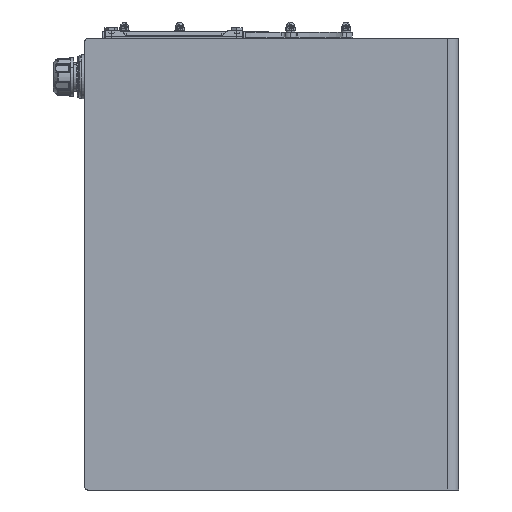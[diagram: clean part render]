
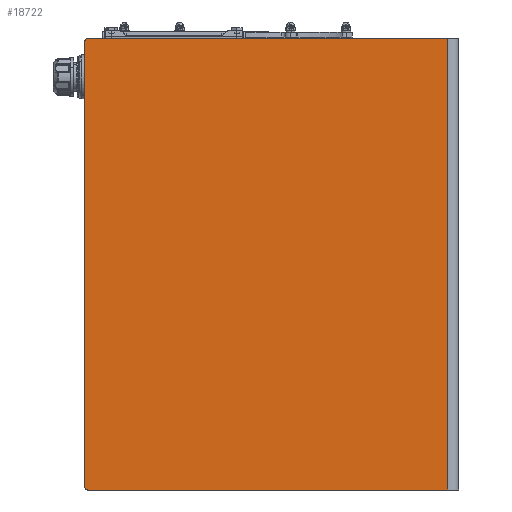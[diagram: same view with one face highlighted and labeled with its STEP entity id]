
A CAD part, left-side view. The second image highlights one B-rep face of the part: STEP entity #18722.
In plain terms, the highlighted planar face has unit normal (-1, 0, 0) as drawn and (0, 0, 1) by its records, which use the part's own axes.
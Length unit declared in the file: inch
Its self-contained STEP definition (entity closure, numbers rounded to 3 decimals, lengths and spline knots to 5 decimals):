
#185 = VERTEX_POINT ( 'NONE', #33031 ) ;
#1149 = ORIENTED_EDGE ( 'NONE', *, *, #26928, .T. ) ;
#1433 = DIRECTION ( 'NONE',  ( 0., 0., -1. ) ) ;
#1453 = ORIENTED_EDGE ( 'NONE', *, *, #2153, .T. ) ;
#1588 = CARTESIAN_POINT ( 'NONE',  ( 18., 14.65625, 0. ) ) ;
#1622 = PLANE ( 'NONE',  #28135 ) ;
#1955 = VECTOR ( 'NONE', #28889, 39.37008 ) ;
#2153 = EDGE_CURVE ( 'NONE', #36305, #19868, #9158, .T. ) ;
#2826 = ORIENTED_EDGE ( 'NONE', *, *, #7020, .T. ) ;
#3908 = EDGE_CURVE ( 'NONE', #29284, #36305, #28402, .T. ) ;
#4066 = DIRECTION ( 'NONE',  ( -1., 0., 0. ) ) ;
#6580 = CARTESIAN_POINT ( 'NONE',  ( 18., -14.06245, 0. ) ) ;
#6896 = FACE_OUTER_BOUND ( 'NONE', #15544, .T. ) ;
#7020 = EDGE_CURVE ( 'NONE', #185, #23092, #35003, .T. ) ;
#9158 = LINE ( 'NONE', #9337, #34920 ) ;
#9337 = CARTESIAN_POINT ( 'NONE',  ( -18., 14.90625, 0. ) ) ;
#9705 = DIRECTION ( 'NONE',  ( -1., 0., 0. ) ) ;
#10272 = CARTESIAN_POINT ( 'NONE',  ( 0., 0., 0. ) ) ;
#10348 = DIRECTION ( 'NONE',  ( 1., 0., 0. ) ) ;
#14272 = LINE ( 'NONE', #17477, #1955 ) ;
#15544 = EDGE_LOOP ( 'NONE', ( #27835, #36625, #1453, #1149, #2826, #16254 ) ) ;
#16021 = DIRECTION ( 'NONE',  ( -1., 0., 0. ) ) ;
#16254 = ORIENTED_EDGE ( 'NONE', *, *, #23882, .T. ) ;
#16708 = DIRECTION ( 'NONE',  ( 0., 0., 1. ) ) ;
#17477 = CARTESIAN_POINT ( 'NONE',  ( 18., -14.90625, 0. ) ) ;
#17736 = VERTEX_POINT ( 'NONE', #6580 ) ;
#18645 = CARTESIAN_POINT ( 'NONE',  ( 17.75, 14.65625, 0. ) ) ;
#18722 = ADVANCED_FACE ( 'NONE', ( #6896 ), #1622, .F. ) ;
#19868 = VERTEX_POINT ( 'NONE', #36419 ) ;
#20956 = CARTESIAN_POINT ( 'NONE',  ( -18., -14.90625, 0. ) ) ;
#21652 = CARTESIAN_POINT ( 'NONE',  ( -18., -14.06245, 0. ) ) ;
#21665 = VECTOR ( 'NONE', #32002, 39.37008 ) ;
#23092 = VERTEX_POINT ( 'NONE', #34764 ) ;
#23171 = CIRCLE ( 'NONE', #30937, 0.25 ) ;
#23882 = EDGE_CURVE ( 'NONE', #23092, #17736, #24453, .T. ) ;
#24453 = LINE ( 'NONE', #21652, #33896 ) ;
#26928 = EDGE_CURVE ( 'NONE', #19868, #185, #23171, .T. ) ;
#27201 = AXIS2_PLACEMENT_3D ( 'NONE', #18645, #35874, #16021 ) ;
#27835 = ORIENTED_EDGE ( 'NONE', *, *, #31826, .T. ) ;
#27959 = CARTESIAN_POINT ( 'NONE',  ( 17.75, 14.90625, 0. ) ) ;
#28135 = AXIS2_PLACEMENT_3D ( 'NONE', #10272, #1433, #9705 ) ;
#28402 = CIRCLE ( 'NONE', #27201, 0.25 ) ;
#28889 = DIRECTION ( 'NONE',  ( 0., 1., 0. ) ) ;
#29284 = VERTEX_POINT ( 'NONE', #1588 ) ;
#30937 = AXIS2_PLACEMENT_3D ( 'NONE', #36940, #16708, #37117 ) ;
#31826 = EDGE_CURVE ( 'NONE', #17736, #29284, #14272, .T. ) ;
#32002 = DIRECTION ( 'NONE',  ( 0., -1., 0. ) ) ;
#33031 = CARTESIAN_POINT ( 'NONE',  ( -18., 14.65625, 0. ) ) ;
#33896 = VECTOR ( 'NONE', #10348, 39.37008 ) ;
#34764 = CARTESIAN_POINT ( 'NONE',  ( -18., -14.06245, 0. ) ) ;
#34920 = VECTOR ( 'NONE', #4066, 39.37008 ) ;
#35003 = LINE ( 'NONE', #20956, #21665 ) ;
#35874 = DIRECTION ( 'NONE',  ( 0., 0., 1. ) ) ;
#36305 = VERTEX_POINT ( 'NONE', #27959 ) ;
#36419 = CARTESIAN_POINT ( 'NONE',  ( -17.75, 14.90625, 0. ) ) ;
#36625 = ORIENTED_EDGE ( 'NONE', *, *, #3908, .T. ) ;
#36940 = CARTESIAN_POINT ( 'NONE',  ( -17.75, 14.65625, 0. ) ) ;
#37117 = DIRECTION ( 'NONE',  ( -1., 0., 0. ) ) ;
